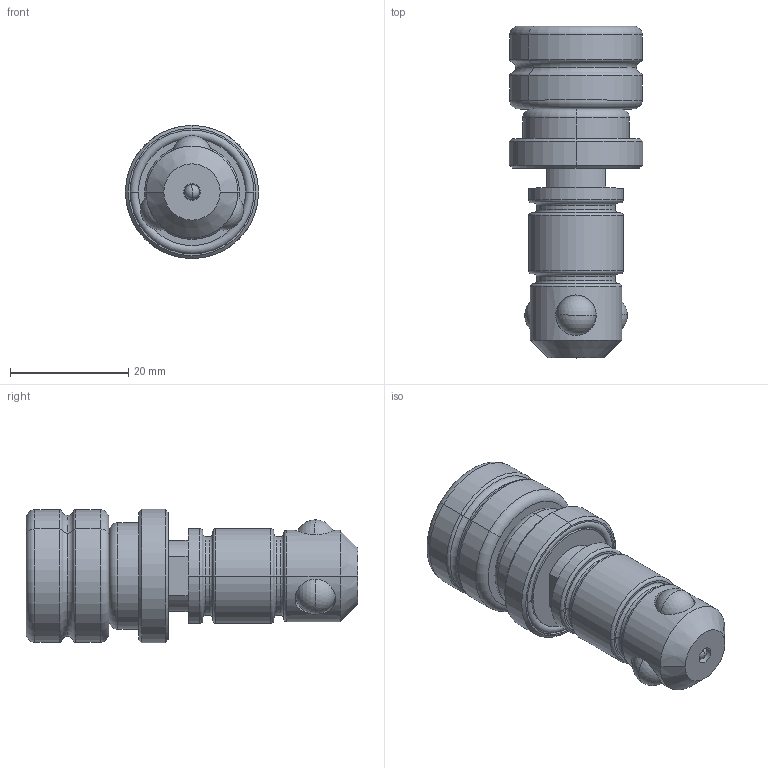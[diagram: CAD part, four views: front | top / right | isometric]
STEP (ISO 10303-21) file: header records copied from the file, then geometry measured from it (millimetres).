
FILE_DESCRIPTION (( 'STEP AP203' ), '1' );
FILE_NAME ('160532.step', '2014-08-11T16:04:32', ( 'User' ), ( '' ), 'SwSTEP 2.0', 'SolidWorks 2014', '' );
FILE_SCHEMA (( 'CONFIG_CONTROL_DESIGN' ));
Length unit declared in the file: millimetre
Products named in the file (7): Kappe u. O-Ring^160532_Detailliert; Kugel 6,747^160532; 160532; 160532 Koerper^160532_Detailliert; 160532 Spindel^160532_Detailliert; Kappe^Kappe u. O-Ring_160532_Detailliert; O-Ring^Kappe u. O-Ring_160532
Assembly tree (8 placements, depth 3):
  160532
    160532 Koerper^160532_Detailliert
    160532 Spindel^160532_Detailliert
    Kappe u. O-Ring^160532_Detailliert
      Kappe^Kappe u. O-Ring_160532_Detailliert
      O-Ring^Kappe u. O-Ring_160532
    Kugel 6,747^160532  x3
Bounding box: 22.5 x 56.05 x 22.5 mm (x, y, z)
Volume: 13069.6 mm3; surface area: 8308.7 mm2
Topology: 7 solids, 7 shells, 147 faces, 339 edges, 208 vertices
Faces by surface type: cylinder 46, torus 44, plane 35, cone 14, sphere 8
Entity records: 5247 total; most frequent: CARTESIAN_POINT 1148, DIRECTION 794, ORIENTED_EDGE 632, AXIS2_PLACEMENT_3D 347, EDGE_CURVE 316, VERTEX_POINT 193, CIRCLE 192, EDGE_LOOP 165
